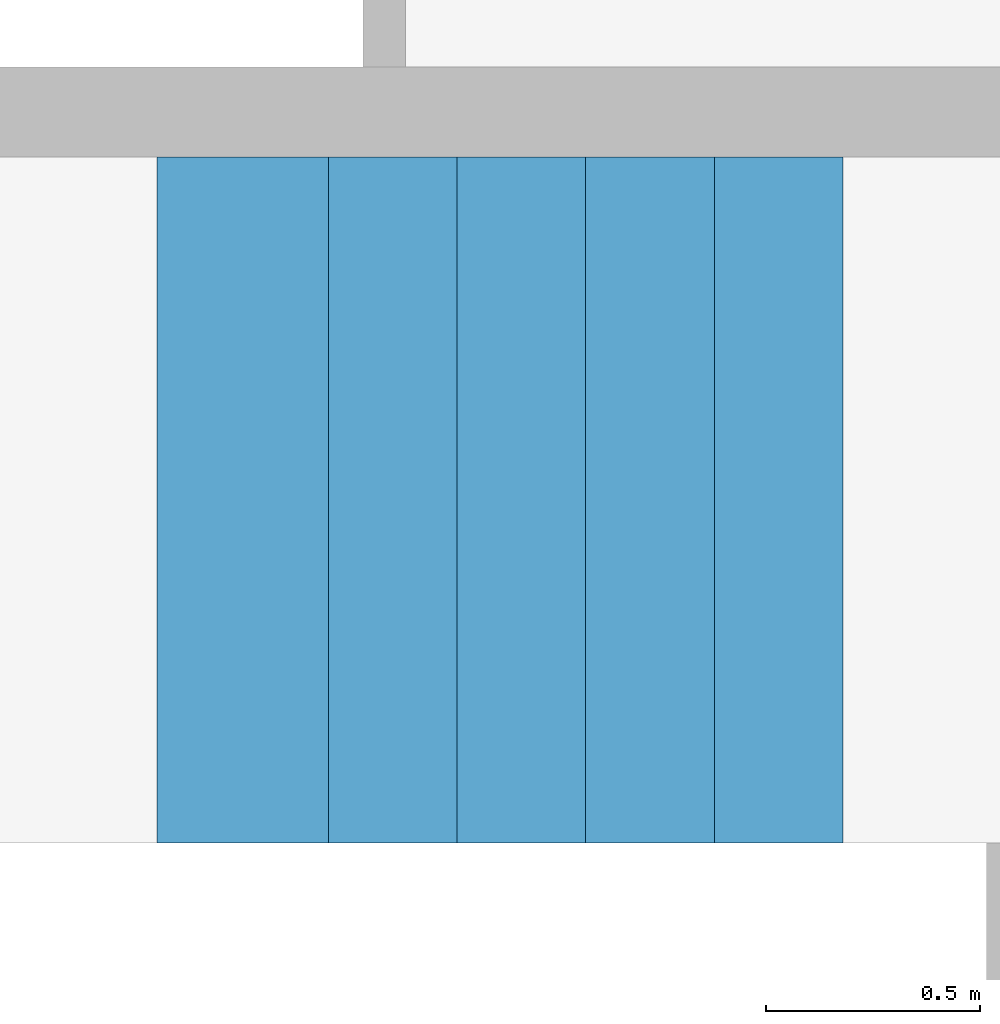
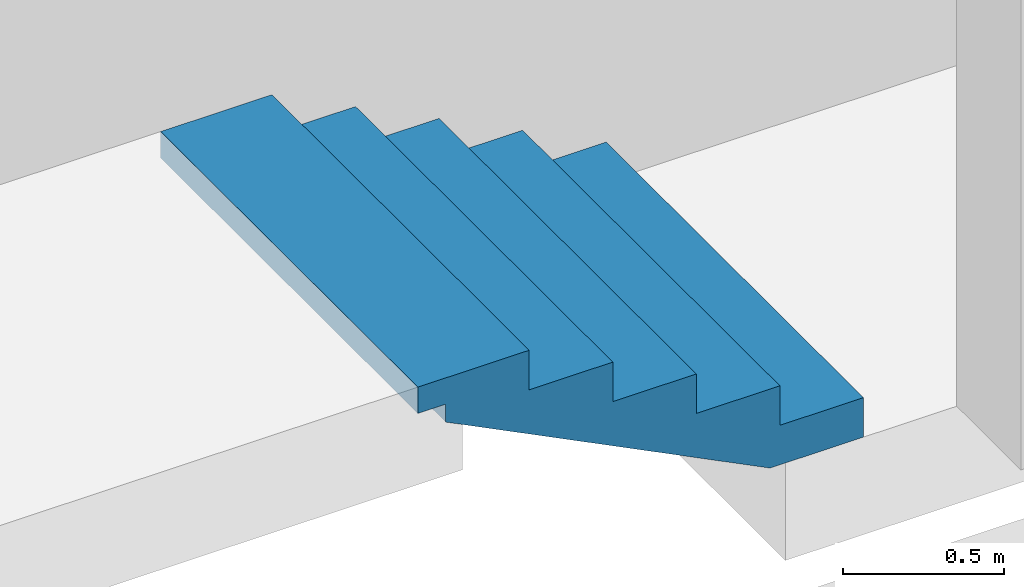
# One storey, part 7 of 15: 1 stair flight, 1 element without a shape of its own.
"""IFC2X3 building model written with IfcOpenShell, lengths in millimetres."""

from ifc_helpers import new_model, entity, si_unit, converted_unit, derived_unit, direction, frame, origin, place, context, subcontext, project, spatial, faceted_brep, element, aggregate, save


model = new_model("IFC2X3")

# Units and contexts
model_context = context("Model", 3, precision=0.01, world=origin(), true_north=direction((6.12303176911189e-17, 1.0)))
body_context = subcontext(model_context, "Body", "Model", "MODEL_VIEW")
ifc_project = project(units=[si_unit("LENGTHUNIT", "METRE", prefix="MILLI"), si_unit("AREAUNIT", "SQUARE_METRE"), si_unit("VOLUMEUNIT", "CUBIC_METRE"), converted_unit("PLANEANGLEUNIT", "DEGREE", entity("IfcRatioMeasure", 0.0174532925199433), si_unit("PLANEANGLEUNIT", "RADIAN"), dimensions=[0, 0, 0, 0, 0, 0, 0]), si_unit("MASSUNIT", "GRAM", prefix="KILO"), derived_unit("MASSDENSITYUNIT", [(si_unit("MASSUNIT", "GRAM", prefix="KILO"), 1), (si_unit("LENGTHUNIT", "METRE"), -3)]), si_unit("TIMEUNIT", "SECOND"), si_unit("FREQUENCYUNIT", "HERTZ"), si_unit("THERMODYNAMICTEMPERATUREUNIT", "DEGREE_CELSIUS"), derived_unit("THERMALTRANSMITTANCEUNIT", [(si_unit("MASSUNIT", "GRAM", prefix="KILO"), 1), (si_unit("THERMODYNAMICTEMPERATUREUNIT", "KELVIN"), -1), (si_unit("TIMEUNIT", "SECOND"), -3)]), derived_unit("VOLUMETRICFLOWRATEUNIT", [(si_unit("LENGTHUNIT", "METRE"), 3), (si_unit("TIMEUNIT", "SECOND"), -1)]), si_unit("ELECTRICCURRENTUNIT", "AMPERE"), si_unit("ELECTRICVOLTAGEUNIT", "VOLT"), si_unit("POWERUNIT", "WATT"), si_unit("FORCEUNIT", "NEWTON", prefix="KILO"), si_unit("ILLUMINANCEUNIT", "LUX"), si_unit("LUMINOUSFLUXUNIT", "LUMEN"), si_unit("LUMINOUSINTENSITYUNIT", "CANDELA"), derived_unit("USERDEFINED", [(si_unit("MASSUNIT", "GRAM", prefix="KILO"), -1), (si_unit("LENGTHUNIT", "METRE"), -2), (si_unit("TIMEUNIT", "SECOND"), 3), (si_unit("LUMINOUSFLUXUNIT", "LUMEN"), 1)]), derived_unit("LINEARVELOCITYUNIT", [(si_unit("LENGTHUNIT", "METRE"), 1), (si_unit("TIMEUNIT", "SECOND"), -1)]), si_unit("PRESSUREUNIT", "PASCAL"), derived_unit("USERDEFINED", [(si_unit("LENGTHUNIT", "METRE"), -2), (si_unit("MASSUNIT", "GRAM", prefix="KILO"), 1), (si_unit("TIMEUNIT", "SECOND"), -2)])], contexts=[model_context])

# Site, building, storey
site_placement = place(None, frame((-151.875543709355, 2715.0, 0.0)))
site = spatial("IfcSite", under=ifc_project, at=site_placement, Name="Surface", CompositionType="ELEMENT")
building_placement = place(site_placement, origin())
building = spatial("IfcBuilding", under=site, at=building_placement, CompositionType="ELEMENT")
storey_placement = place(building_placement, frame((0.0, 0.0, 7670.0)))
storey = spatial("IfcBuildingStorey", under=building, at=storey_placement, Name="uus 3 korrus", CompositionType="ELEMENT", Elevation=7670.00000000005)

# Stair, stair flight
stair_placement = place(storey_placement, origin())
stair = element("IfcStair", 1, at=stair_placement, inside=storey, Name="Precast Stair:Stair", ObjectType="Precast Stair:Uus betoonist sisestrepp 4", ShapeType="NOTDEFINED")
stair_flight_placement = place(stair_placement, frame((33701.6162681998, 13210.0, 0.0)))
stair_flight = element("IfcStairFlight", 2, at=stair_flight_placement, Name="Precast Stair:Stair:942737 Run 1", ObjectType="Precast Stair:Uus betoonist sisestrepp 4", NumberOfRiser=5, NumberOfTreads=5, RiserHeight=0.492125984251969, TreadLength=0.984251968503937, context=body_context, shape_type="Brep", body=[
    faceted_brep([(1300.0, 0.0, 150.0), (1600.0, 0.0, 150.0), (1600.0, 1600.0, 150.0), (1300.0, 1600.0, 150.0), (1300.0, 0.0, 0.0), (1600.0, 0.0, 0.0), (1600.0, 1600.0, 0.0), (1300.0, 1600.0, 0.0), (1000.0, 0.0, 300.0), (1300.0, 0.0, 300.0), (1300.0, 1600.0, 300.0), (1000.0, 1600.0, 300.0), (1000.0, 0.0, 132.294901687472), (1264.58980337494, 0.0, 0.0), (1264.58980337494, 1600.0, 0.0), (1000.0, 1600.0, 132.294901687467), (700.0, 0.0, 450.0), (1000.0, 0.0, 450.0), (1000.0, 1600.0, 450.0), (700.0, 1600.0, 450.0), (700.0, 0.0, 282.29490168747), (700.0, 1600.0, 282.294901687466), (400.0, 0.0, 432.294901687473), (100.0, 0.0, 582.294901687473), (100.0, 1600.0, 582.294901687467), (400.0, 1600.0, 432.294901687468), (0.0, 1600.0, 650.0), (100.0, 1600.0, 650.0), (100.0, 0.0, 650.0), (0.0, 0.0, 650.0), (0.0, 0.0, 750.0), (0.0, 1600.0, 750.0), (400.0, 0.0, 600.0), (700.0, 0.0, 600.0), (700.0, 1600.0, 600.0), (400.0, 1600.0, 600.0), (400.0, 0.0, 750.0), (400.0, 1600.0, 750.0)], [[[0, 1, 2, 3]], [[1, 0, 4, 5]], [[2, 1, 5, 6]], [[3, 2, 6, 7]], [[8, 9, 10, 11]], [[4, 0, 9, 8, 12, 13]], [[0, 3, 10, 9]], [[3, 7, 14, 15, 11, 10]], [[16, 17, 18, 19]], [[17, 16, 20, 12, 8]], [[8, 11, 18, 17]], [[19, 18, 11, 15, 21]], [[5, 4, 13, 14, 7, 6]], [[14, 13, 12, 20, 22, 23, 24, 25, 21, 15]], [[26, 27, 28, 29]], [[26, 29, 30, 31]], [[32, 33, 34, 35]], [[33, 32, 22, 20, 16]], [[16, 19, 34, 33]], [[35, 34, 19, 21, 25]], [[36, 37, 31, 30]], [[36, 30, 29, 28, 23, 22, 32]], [[32, 35, 37, 36]], [[31, 37, 35, 25, 24, 27, 26]], [[24, 23, 28, 27]]]),
])
aggregate(stair, [stair_flight])

save(model, "model.ifc")
